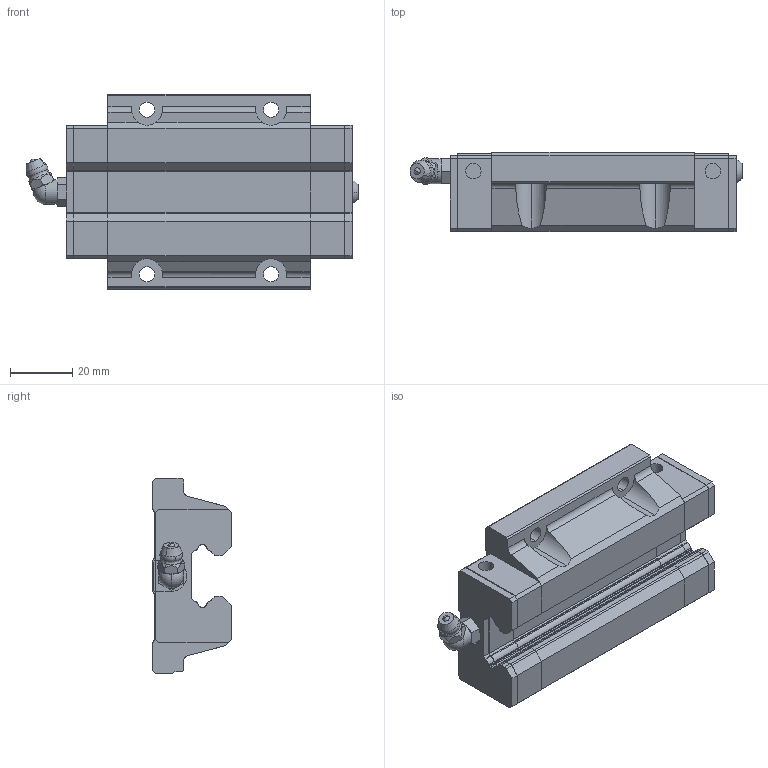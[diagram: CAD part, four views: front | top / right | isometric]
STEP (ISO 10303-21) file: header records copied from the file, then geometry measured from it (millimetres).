
FILE_DESCRIPTION (( 'STEP AP203' ), '1' );
FILE_NAME ('SGW20HA.STEP', '2025-06-27T05:51:58', ( 'Owner' ), ( 'Organization' ), 'SwSTEP 2.0', 'SolidWorks 2020', '' );
FILE_SCHEMA (( 'CONFIG_CONTROL_DESIGN' ));
Length unit declared in the file: millimetre
Products named in the file (1): SGW20HA
Bounding box: 107 x 25.4 x 63 mm (x, y, z)
Volume: 95073.5 mm3; surface area: 28588.6 mm2
Topology: 7 solids, 8 shells, 517 faces, 1396 edges, 905 vertices
Faces by surface type: plane 291, cylinder 168, cone 44, sphere 6, torus 6, bspline 2
Entity records: 16758 total; most frequent: CARTESIAN_POINT 3600, ORIENTED_EDGE 2784, DIRECTION 2718, EDGE_CURVE 1392, AXIS2_PLACEMENT_3D 910, VERTEX_POINT 903, LINE 898, VECTOR 898
